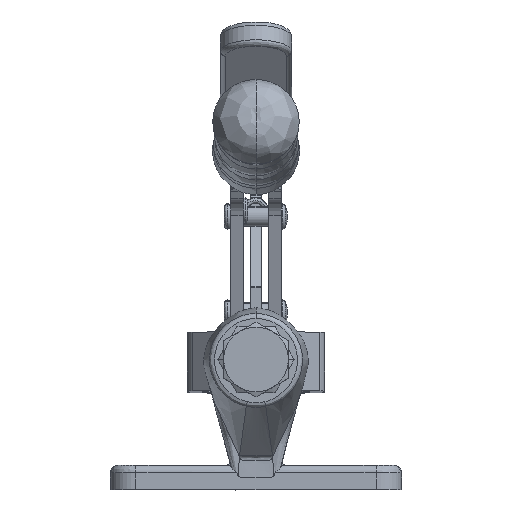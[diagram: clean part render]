
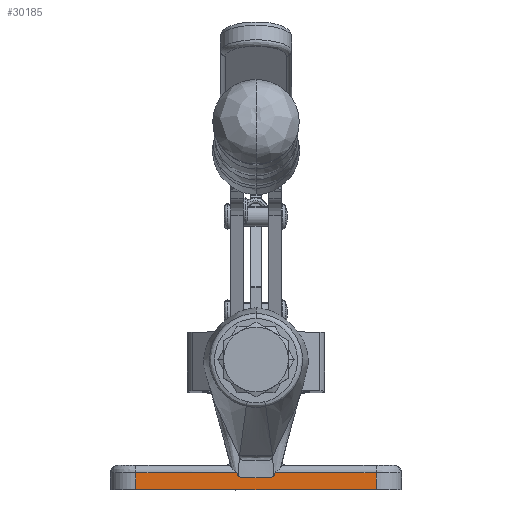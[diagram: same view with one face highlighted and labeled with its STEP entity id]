
A CAD part, top view. The second image highlights one B-rep face of the part: STEP entity #30185.
In plain terms, the highlighted planar face has unit normal (0, 0, 1).
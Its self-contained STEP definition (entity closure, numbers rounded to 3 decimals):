
#528 = EDGE_CURVE ( 'NONE', #15716, #30268, #18276, .T. ) ;
#799 = FACE_OUTER_BOUND ( 'NONE', #25551, .T. ) ;
#1911 = CARTESIAN_POINT ( 'NONE',  ( -3.69, -22.378, -20.6 ) ) ;
#1925 = VERTEX_POINT ( 'NONE', #19727 ) ;
#2223 = LINE ( 'NONE', #34836, #15863 ) ;
#2707 = EDGE_CURVE ( 'NONE', #34589, #20954, #34771, .T. ) ;
#2796 = CARTESIAN_POINT ( 'NONE',  ( -23.6, -25.4, -20.6 ) ) ;
#2838 = LINE ( 'NONE', #32463, #3259 ) ;
#3121 = EDGE_CURVE ( 'NONE', #30268, #23916, #2838, .T. ) ;
#3259 = VECTOR ( 'NONE', #10452, 1000. ) ;
#4951 = CARTESIAN_POINT ( 'NONE',  ( -3.194, -22.951, -20.6 ) ) ;
#6944 = DIRECTION ( 'NONE',  ( 1., 0., 0. ) ) ;
#7019 = CARTESIAN_POINT ( 'NONE',  ( 28.6, -25.4, -20.6 ) ) ;
#7142 = CARTESIAN_POINT ( 'NONE',  ( -3.792, -22.1, -20.6 ) ) ;
#8102 = ORIENTED_EDGE ( 'NONE', *, *, #25289, .F. ) ;
#8685 = ORIENTED_EDGE ( 'NONE', *, *, #2707, .F. ) ;
#9145 = CARTESIAN_POINT ( 'NONE',  ( 28.6, -25.4, -20.6 ) ) ;
#9195 = CARTESIAN_POINT ( 'NONE',  ( 3.69, -22.378, -20.6 ) ) ;
#10075 = EDGE_CURVE ( 'NONE', #32449, #34589, #2223, .T. ) ;
#10394 = LINE ( 'NONE', #2796, #12108 ) ;
#10452 = DIRECTION ( 'NONE',  ( 0., -1., 0. ) ) ;
#10514 = VECTOR ( 'NONE', #14608, 1000. ) ;
#11057 = CARTESIAN_POINT ( 'NONE',  ( 0.287, -23.078, -20.6 ) ) ;
#11846 = AXIS2_PLACEMENT_3D ( 'NONE', #7019, #34502, #18223 ) ;
#12108 = VECTOR ( 'NONE', #19479, 1000. ) ;
#12637 = LINE ( 'NONE', #9145, #10514 ) ;
#13569 = CARTESIAN_POINT ( 'NONE',  ( -23.6, -22.1, -20.6 ) ) ;
#13570 = CARTESIAN_POINT ( 'NONE',  ( 3.488, -22.927, -20.6 ) ) ;
#13804 = CARTESIAN_POINT ( 'NONE',  ( 0., -23.078, -20.6 ) ) ;
#14312 = B_SPLINE_CURVE_WITH_KNOTS ( 'NONE', 3, ( #33571, #25295, #9195, #17283 ), .UNSPECIFIED., .F., .F., ( 4, 4 ), ( 0., 0.001 ), .UNSPECIFIED. ) ;
#14608 = DIRECTION ( 'NONE',  ( 1., 0., 0. ) ) ;
#14951 = CARTESIAN_POINT ( 'NONE',  ( 28.6, -22.1, -20.6 ) ) ;
#15364 = CARTESIAN_POINT ( 'NONE',  ( -3.588, -22.654, -20.6 ) ) ;
#15420 = ORIENTED_EDGE ( 'NONE', *, *, #33608, .F. ) ;
#15716 = VERTEX_POINT ( 'NONE', #29268 ) ;
#15863 = VECTOR ( 'NONE', #32119, 1000. ) ;
#15985 = EDGE_CURVE ( 'NONE', #1925, #23916, #12637, .T. ) ;
#16015 = CARTESIAN_POINT ( 'NONE',  ( -2.607, -22.994, -20.6 ) ) ;
#16129 = CARTESIAN_POINT ( 'NONE',  ( -3.488, -22.927, -20.6 ) ) ;
#16175 = CARTESIAN_POINT ( 'NONE',  ( 2.607, -22.994, -20.6 ) ) ;
#16273 = EDGE_CURVE ( 'NONE', #20954, #23020, #31702, .T. ) ;
#16732 = ORIENTED_EDGE ( 'NONE', *, *, #10075, .F. ) ;
#17283 = CARTESIAN_POINT ( 'NONE',  ( 3.792, -22.1, -20.6 ) ) ;
#18223 = DIRECTION ( 'NONE',  ( 0., 1., 0. ) ) ;
#18276 = LINE ( 'NONE', #14951, #33161 ) ;
#18640 = CARTESIAN_POINT ( 'NONE',  ( -0.287, -23.078, -20.6 ) ) ;
#18757 = CARTESIAN_POINT ( 'NONE',  ( -0.863, -23.072, -20.6 ) ) ;
#19479 = DIRECTION ( 'NONE',  ( 0., 1., 0. ) ) ;
#19702 = ORIENTED_EDGE ( 'NONE', *, *, #15985, .T. ) ;
#19727 = CARTESIAN_POINT ( 'NONE',  ( -23.6, -25.4, -20.6 ) ) ;
#20954 = VERTEX_POINT ( 'NONE', #31783 ) ;
#20971 = CARTESIAN_POINT ( 'NONE',  ( -3.488, -22.927, -20.6 ) ) ;
#21383 = CARTESIAN_POINT ( 'NONE',  ( 0., -23.078, -20.6 ) ) ;
#21795 = ORIENTED_EDGE ( 'NONE', *, *, #3121, .F. ) ;
#23020 = VERTEX_POINT ( 'NONE', #25230 ) ;
#23064 = VERTEX_POINT ( 'NONE', #25576 ) ;
#23729 = CARTESIAN_POINT ( 'NONE',  ( 23.6, -25.4, -20.6 ) ) ;
#23916 = VERTEX_POINT ( 'NONE', #23729 ) ;
#24210 = ORIENTED_EDGE ( 'NONE', *, *, #25971, .F. ) ;
#24890 = CARTESIAN_POINT ( 'NONE',  ( 1.732, -23.042, -20.6 ) ) ;
#25230 = CARTESIAN_POINT ( 'NONE',  ( 0., -23.078, -20.6 ) ) ;
#25289 = EDGE_CURVE ( 'NONE', #23020, #23064, #30469, .T. ) ;
#25295 = CARTESIAN_POINT ( 'NONE',  ( 3.588, -22.654, -20.6 ) ) ;
#25551 = EDGE_LOOP ( 'NONE', ( #16732, #24210, #19702, #21795, #25682, #15420, #8102, #29960, #8685 ) ) ;
#25576 = CARTESIAN_POINT ( 'NONE',  ( 3.488, -22.927, -20.6 ) ) ;
#25682 = ORIENTED_EDGE ( 'NONE', *, *, #528, .F. ) ;
#25971 = EDGE_CURVE ( 'NONE', #1925, #32449, #10394, .T. ) ;
#26729 = CARTESIAN_POINT ( 'NONE',  ( -1.732, -23.042, -20.6 ) ) ;
#27238 = CARTESIAN_POINT ( 'NONE',  ( 0.863, -23.072, -20.6 ) ) ;
#28715 = PLANE ( 'NONE',  #11846 ) ;
#29181 = CARTESIAN_POINT ( 'NONE',  ( 23.6, -22.1, -20.6 ) ) ;
#29268 = CARTESIAN_POINT ( 'NONE',  ( 3.792, -22.1, -20.6 ) ) ;
#29948 = CARTESIAN_POINT ( 'NONE',  ( -3.792, -22.1, -20.6 ) ) ;
#29960 = ORIENTED_EDGE ( 'NONE', *, *, #16273, .F. ) ;
#30185 = ADVANCED_FACE ( 'NONE', ( #799 ), #28715, .F. ) ;
#30268 = VERTEX_POINT ( 'NONE', #29181 ) ;
#30469 = B_SPLINE_CURVE_WITH_KNOTS ( 'NONE', 3, ( #13804, #11057, #27238, #24890, #16175, #32826, #13570 ), .UNSPECIFIED., .F., .F., ( 4, 1, 1, 1, 4 ), ( 0., 0.25, 0.5, 0.75, 1. ), .UNSPECIFIED. ) ;
#31702 = B_SPLINE_CURVE_WITH_KNOTS ( 'NONE', 3, ( #16129, #4951, #16015, #26729, #18757, #18640, #21383 ), .UNSPECIFIED., .F., .F., ( 4, 1, 1, 1, 4 ), ( 0., 0.25, 0.5, 0.75, 1. ), .UNSPECIFIED. ) ;
#31783 = CARTESIAN_POINT ( 'NONE',  ( -3.488, -22.927, -20.6 ) ) ;
#32119 = DIRECTION ( 'NONE',  ( 1., 0., 0. ) ) ;
#32449 = VERTEX_POINT ( 'NONE', #13569 ) ;
#32463 = CARTESIAN_POINT ( 'NONE',  ( 23.6, -19.78, -20.6 ) ) ;
#32826 = CARTESIAN_POINT ( 'NONE',  ( 3.194, -22.951, -20.6 ) ) ;
#33161 = VECTOR ( 'NONE', #6944, 1000. ) ;
#33571 = CARTESIAN_POINT ( 'NONE',  ( 3.488, -22.927, -20.6 ) ) ;
#33608 = EDGE_CURVE ( 'NONE', #23064, #15716, #14312, .T. ) ;
#34502 = DIRECTION ( 'NONE',  ( 0., 0., -1. ) ) ;
#34589 = VERTEX_POINT ( 'NONE', #29948 ) ;
#34771 = B_SPLINE_CURVE_WITH_KNOTS ( 'NONE', 3, ( #7142, #1911, #15364, #20971 ), .UNSPECIFIED., .F., .F., ( 4, 4 ), ( 0., 0.001 ), .UNSPECIFIED. ) ;
#34836 = CARTESIAN_POINT ( 'NONE',  ( 28.6, -22.1, -20.6 ) ) ;
